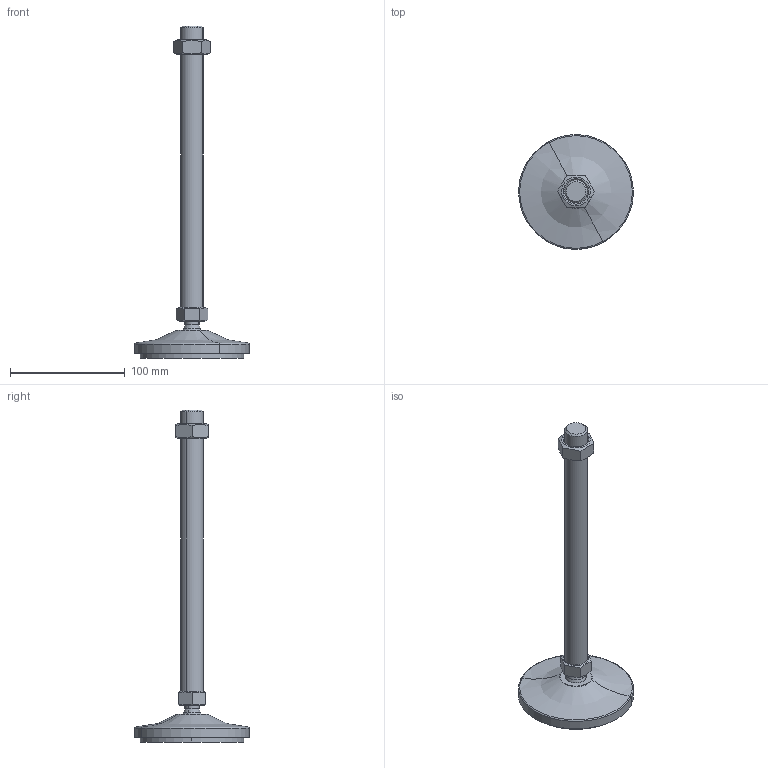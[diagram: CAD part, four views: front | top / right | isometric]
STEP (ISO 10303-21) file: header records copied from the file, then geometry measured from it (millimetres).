
FILE_DESCRIPTION(('CATIA V5 STEP Exchange'),'2;1');
FILE_NAME('C:\Users\ALI OZGUN\Desktop\alhan\saplama2\560102629AV.stp','2017-09-21T10:31:17+00:00',('none'),('none'),'CATIA Version 5 Release 21 GA (IN-10)','CATIA V5 STEP AP203','none');
FILE_SCHEMA(('CONFIG_CONTROL_DESIGN'));
Length unit declared in the file: millimetre
Products named in the file (1): 560102629AV
Bounding box: 99.97 x 99.97 x 289 mm (x, y, z)
Volume: 208910 mm3; surface area: 56466.1 mm2
Topology: 4 solids, 4 shells, 64 faces, 142 edges, 87 vertices
Faces by surface type: plane 22, cylinder 16, cone 16, torus 4, revolution 4, sphere 2
Entity records: 1957 total; most frequent: CARTESIAN_POINT 649, ORIENTED_EDGE 280, DIRECTION 197, EDGE_CURVE 140, AXIS2_PLACEMENT_3D 106, VERTEX_POINT 87, EDGE_LOOP 71, ADVANCED_FACE 64
